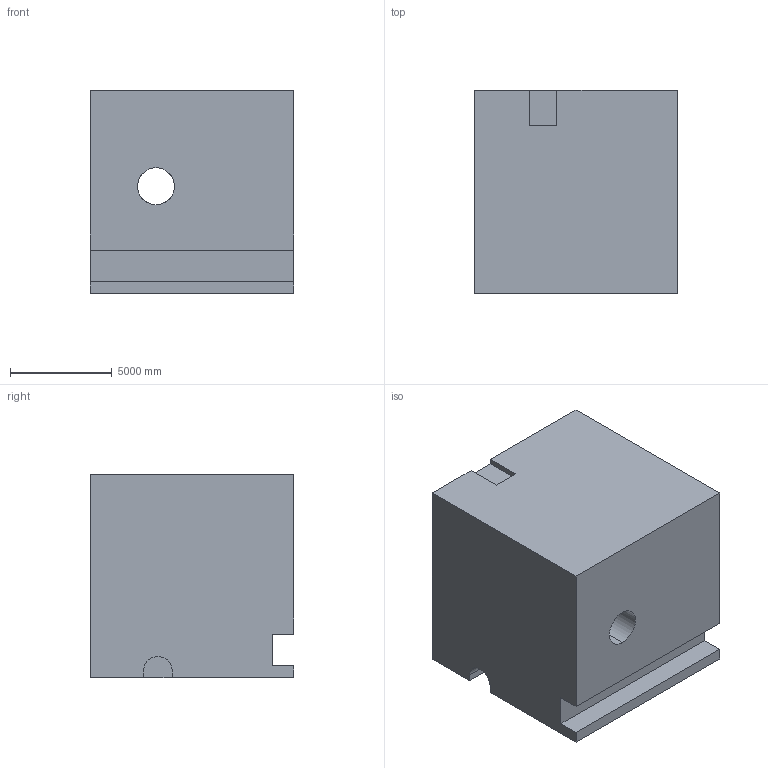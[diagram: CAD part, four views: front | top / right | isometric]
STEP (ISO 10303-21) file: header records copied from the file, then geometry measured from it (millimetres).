
FILE_DESCRIPTION (( 'STEP AP203' ), '1' );
FILE_NAME ('40.STEP', '2022-09-02T13:47:44', ( 'user' ), ( '' ), 'SwSTEP 2.0', 'SolidWorks 2021', '' );
FILE_SCHEMA (( 'CONFIG_CONTROL_DESIGN' ));
Length unit declared in the file: centimetre
Products named in the file (1): 40
Bounding box: 10000 x 10000 x 10000 mm (x, y, z)
Volume: 915462532748.1 mm3; surface area: 740128992.2 mm2
Topology: 1 solids, 1 shells, 27 faces, 72 edges, 48 vertices
Faces by surface type: plane 19, cylinder 8
Entity records: 925 total; most frequent: CARTESIAN_POINT 148, DIRECTION 146, ORIENTED_EDGE 144, EDGE_CURVE 72, VECTOR 54, LINE 54, VERTEX_POINT 48, AXIS2_PLACEMENT_3D 46
